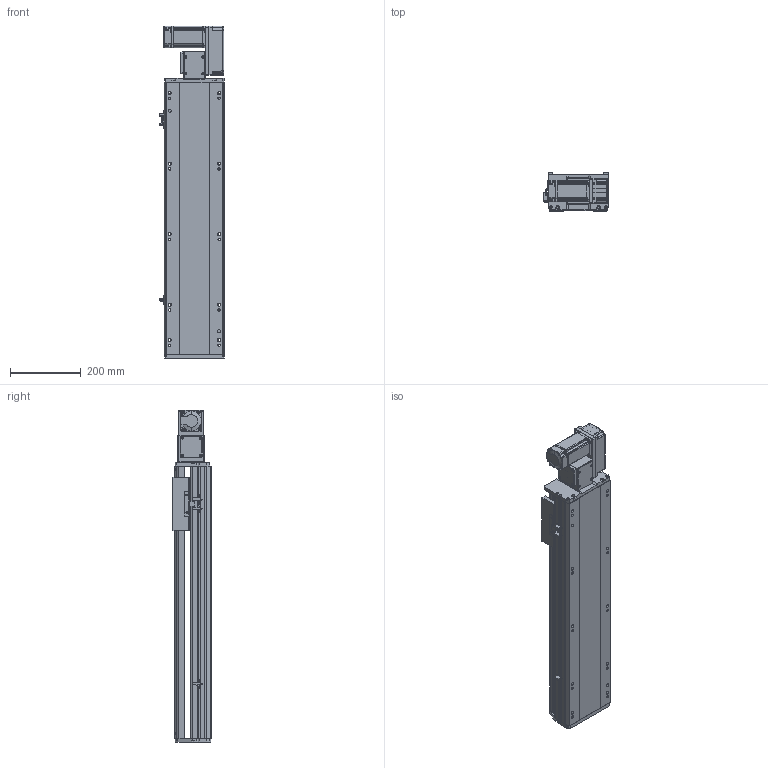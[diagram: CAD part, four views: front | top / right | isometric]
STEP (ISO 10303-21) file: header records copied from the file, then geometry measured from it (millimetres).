
FILE_DESCRIPTION (( 'STEP AP214' ), '1' );
FILE_NAME ('RTB17S-XX-500-R-M40-C4.STEP', '2025-12-11T07:33:50', ( '' ), ( '' ), 'SwSTEP 2.0', 'SolidWorks 2018', '' );
FILE_SCHEMA (( 'AUTOMOTIVE_DESIGN' ));
Length unit declared in the file: millimetre
Products named in the file (14): RTB17-R-011菁釱^RTB17S-XX-XX-R-M40-C4; RTH13-BL-012覜茼え俋离^RTB17S-XX-XX-R-M40-C4; RTB14-L-008-M20--萇儂啣^RTB17S-R-々湍釱蚾饜-400W_RTB17S-XX-XX-R-M40-C4; RTB14-L-017P^RTB17S-R-々湍釱蚾饜-400W_RTB17S-XX-XX-R-M40-C4; 400W侜督萇儂^RTB17S-XX-XX-R-M40-C4; RTB17S-L-004佪裝蹟譫蟀諉釱^RTB17S-XX-XX-R-M40-C4; RTB17S-L-001耜醱啣^RTB17S-XX-XX-R-M40-C4; RTB17S-L-007奻裔^RTB17S-XX-XX-R-M40-C4; OMRON EE-SX672 传感器^RTB17S-XX-XX-R-M40-C4; RTB17S-R-々湍釱蚾饜-400W^RTB17S-XX-XX-R-M40-C4; RTB14-L-018P^RTB17S-R-々湍釱蚾饜-400W_RTB17S-XX-XX-R-M40-C4; RTB14-L-005P--轴承塑胶压盖^RTB17S-R-皮带座装配-400W_RTB17S-XX-XX-R-M40-C4; RTB17S-XX-500-R-M40-C4; RTB17S-L-014-T20--々湍釱^RTB17S-R-々湍釱蚾饜-400W_RTB17S-XX-XX-R-M40-C4
Assembly tree (16 placements, depth 3):
  RTB17S-XX-500-R-M40-C4
    RTB17-R-011菁釱^RTB17S-XX-XX-R-M40-C4
    RTB17S-L-007奻裔^RTB17S-XX-XX-R-M40-C4
    OMRON EE-SX672 传感器^RTB17S-XX-XX-R-M40-C4  x3
    RTB17S-L-001耜醱啣^RTB17S-XX-XX-R-M40-C4
    400W侜督萇儂^RTB17S-XX-XX-R-M40-C4
    RTB17S-L-004佪裝蹟譫蟀諉釱^RTB17S-XX-XX-R-M40-C4
    RTH13-BL-012覜茼え俋离^RTB17S-XX-XX-R-M40-C4
    RTB17S-R-々湍釱蚾饜-400W^RTB17S-XX-XX-R-M40-C4
      RTB17S-L-014-T20--々湍釱^RTB17S-R-々湍釱蚾饜-400W_RTB17S-XX-XX-R-M40-C4
      RTB14-L-005P--轴承塑胶压盖^RTB17S-R-皮带座装配-400W_RTB17S-XX-XX-R-M40-C4
      RTB14-L-008-M20--萇儂啣^RTB17S-R-々湍釱蚾饜-400W_RTB17S-XX-XX-R-M40-C4
      RTB14-L-017P^RTB17S-R-々湍釱蚾饜-400W_RTB17S-XX-XX-R-M40-C4  x2
      RTB14-L-018P^RTB17S-R-々湍釱蚾饜-400W_RTB17S-XX-XX-R-M40-C4
Bounding box: 183.5 x 108 x 941 mm (x, y, z)
Volume: 8294293.3 mm3; surface area: 1054318.5 mm2
Topology: 15 solids, 15 shells, 2173 faces, 5979 edges, 3897 vertices
Faces by surface type: plane 1064, cylinder 661, bspline 301, cone 139, torus 8
Entity records: 61097 total; most frequent: CARTESIAN_POINT 16984, ORIENTED_EDGE 8802, DIRECTION 8216, EDGE_CURVE 4401, VERTEX_POINT 2885, AXIS2_PLACEMENT_3D 2815, LINE 2586, VECTOR 2586
